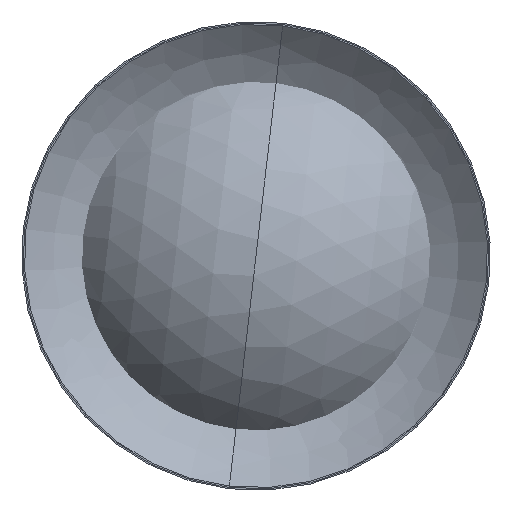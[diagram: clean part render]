
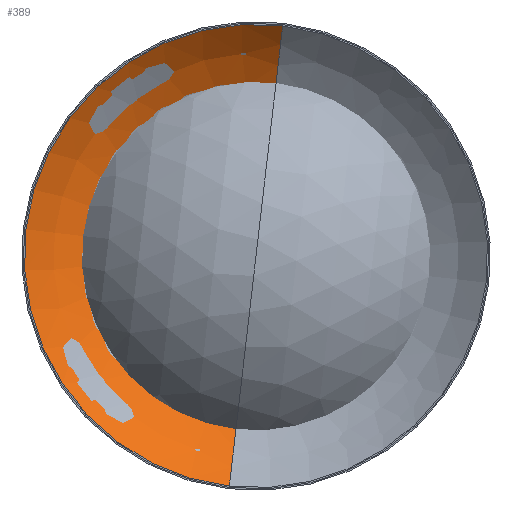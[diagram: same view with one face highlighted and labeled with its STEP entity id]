
A CAD part, top view. The second image highlights one B-rep face of the part: STEP entity #389.
In plain terms, the highlighted free-form (B-spline) face has degree [2, 2] with [3, 5] control points.
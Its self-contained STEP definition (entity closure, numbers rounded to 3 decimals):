
#53=(
BOUNDED_SURFACE()
B_SPLINE_SURFACE(2,2,((#634,#635,#636,#637,#638),(#639,#640,#641,#642,#643),
(#644,#645,#646,#647,#648)),.UNSPECIFIED.,.F.,.F.,.F.)
B_SPLINE_SURFACE_WITH_KNOTS((3,3),(3,2,3),(-1.131,-0.773),
(-1.571,0.,1.571),.UNSPECIFIED.)
GEOMETRIC_REPRESENTATION_ITEM()
RATIONAL_B_SPLINE_SURFACE(((1.,0.707,1.,0.707,1.),
(0.984,0.696,0.984,0.696,
0.984),(1.,0.707,1.,0.707,1.)))
REPRESENTATION_ITEM('')
SURFACE()
);
#63=FACE_OUTER_BOUND('',#95,.T.);
#95=EDGE_LOOP('',(#276,#277,#278,#279));
#155=CIRCLE('',#428,141.048);
#156=CIRCLE('',#429,178.125);
#158=CIRCLE('',#431,178.125);
#159=CIRCLE('',#432,192.775);
#182=VERTEX_POINT('',#606);
#183=VERTEX_POINT('',#608);
#184=VERTEX_POINT('',#629);
#185=VERTEX_POINT('',#631);
#213=EDGE_CURVE('',#182,#183,#155,.T.);
#214=EDGE_CURVE('',#184,#182,#156,.T.);
#216=EDGE_CURVE('',#183,#185,#158,.T.);
#217=EDGE_CURVE('',#184,#185,#159,.T.);
#276=ORIENTED_EDGE('',*,*,#213,.T.);
#277=ORIENTED_EDGE('',*,*,#216,.T.);
#278=ORIENTED_EDGE('',*,*,#217,.F.);
#279=ORIENTED_EDGE('',*,*,#214,.T.);
#389=ADVANCED_FACE('',(#63),#53,.T.);
#428=AXIS2_PLACEMENT_3D('',#613,#492,#493);
#429=AXIS2_PLACEMENT_3D('',#630,#494,#495);
#431=AXIS2_PLACEMENT_3D('',#633,#498,#499);
#432=AXIS2_PLACEMENT_3D('',#649,#500,#501);
#492=DIRECTION('center_axis',(0.,0.,
-1.));
#493=DIRECTION('ref_axis',(1.,0.,0.));
#494=DIRECTION('center_axis',(1.,0.,0.));
#495=DIRECTION('ref_axis',(0.,-1.,0.));
#498=DIRECTION('center_axis',(1.,0.,0.));
#499=DIRECTION('ref_axis',(0.,1.,0.));
#500=DIRECTION('center_axis',(0.,0.,
-1.));
#501=DIRECTION('ref_axis',(1.,0.,0.));
#606=CARTESIAN_POINT('',(0.,-141.048,33.153));
#608=CARTESIAN_POINT('',(0.,141.048,33.153));
#613=CARTESIAN_POINT('Origin',(0.,0.,
33.153));
#629=CARTESIAN_POINT('',(0.,-192.775,70.));
#630=CARTESIAN_POINT('Origin',(0.,-65.222,
194.333));
#631=CARTESIAN_POINT('',(0.,192.775,70.));
#633=CARTESIAN_POINT('Origin',(0.,65.222,194.333));
#634=CARTESIAN_POINT('Ctrl Pts',(0.,141.048,
33.153));
#635=CARTESIAN_POINT('Ctrl Pts',(-141.048,141.048,33.153));
#636=CARTESIAN_POINT('Ctrl Pts',(-141.048,0.,
33.153));
#637=CARTESIAN_POINT('Ctrl Pts',(-141.048,-141.048,33.153));
#638=CARTESIAN_POINT('Ctrl Pts',(0.,-141.048,
33.153));
#639=CARTESIAN_POINT('Ctrl Pts',(0.,170.249,
46.891));
#640=CARTESIAN_POINT('Ctrl Pts',(-170.249,170.249,46.891));
#641=CARTESIAN_POINT('Ctrl Pts',(-170.249,0.,
46.891));
#642=CARTESIAN_POINT('Ctrl Pts',(-170.249,-170.249,46.891));
#643=CARTESIAN_POINT('Ctrl Pts',(0.,-170.249,
46.891));
#644=CARTESIAN_POINT('Ctrl Pts',(0.,192.775,70.));
#645=CARTESIAN_POINT('Ctrl Pts',(-192.775,192.775,70.));
#646=CARTESIAN_POINT('Ctrl Pts',(-192.775,0.,
70.));
#647=CARTESIAN_POINT('Ctrl Pts',(-192.775,-192.775,70.));
#648=CARTESIAN_POINT('Ctrl Pts',(0.,-192.775,
70.));
#649=CARTESIAN_POINT('Origin',(0.,0.,
70.));
